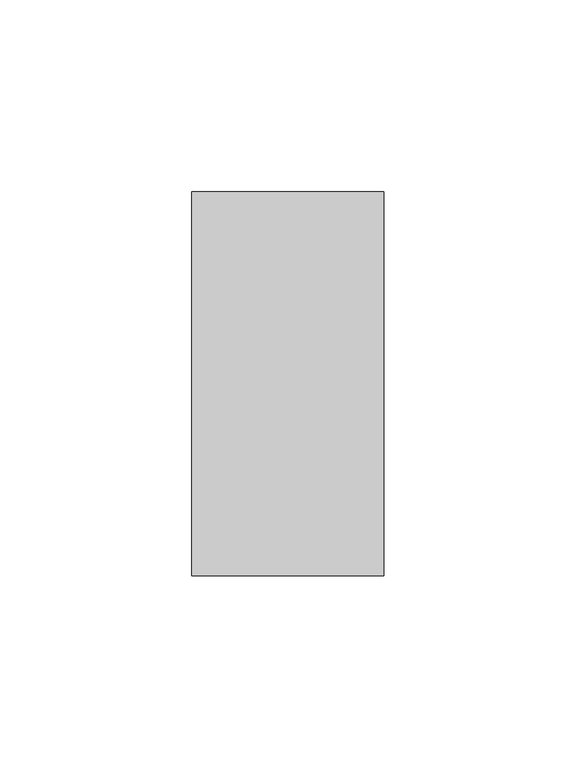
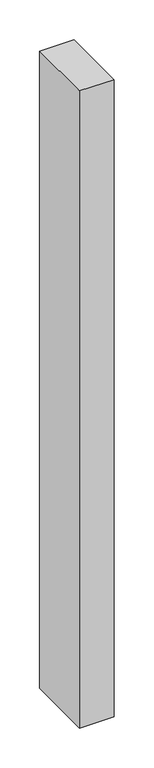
"""IFC4 building model written with IfcOpenShell, lengths in millimetres: member geometry, Прямоугольный импост : 50х100."""

from ifc_helpers import new_model, si_unit, frame, origin, place, context, project, spatial, polyline, outline, extrude, source, transform, mapped, element, save


def member_10280f2c(model_context):
    return source(origin(), model_context, "Body", "SweptSolid", [
        extrude(outline(polyline([(25.0, 50.0), (25.0, -50.0), (-25.0, -50.0), (-25.0, 50.0), (25.0, 50.0)])), frame((0.0, 0.0, -975.0), z_axis=(0.0, 0.0, 1.0), x_axis=(1.0, 0.0, 0.0)), (0.0, 0.0, 1.0), 975.0),
    ])


if __name__ == "__main__":
    model = new_model("IFC4")
    model_context = context("Model", 3, world=origin())
    ifc_project = project(units=[si_unit("LENGTHUNIT", "METRE", prefix="MILLI")], contexts=[model_context])
    site = spatial("IfcSite", under=ifc_project)
    building = spatial("IfcBuilding", under=site)
    placement = place(None, origin())
    member_shape = member_10280f2c(model_context)
    element("IfcMember", 1, ObjectType="Прямоугольный импост : 50х100", at=placement, inside=building, context=model_context, shape_type="MappedRepresentation", body=[
        mapped(member_shape, transform((0.0, 0.0, 0.0), x_axis=(1.0, 0.0, 0.0), y_axis=(0.0, 1.0, 0.0), z_axis=(0.0, 0.0, 1.0))),
    ])
    save(model, "model.ifc")
